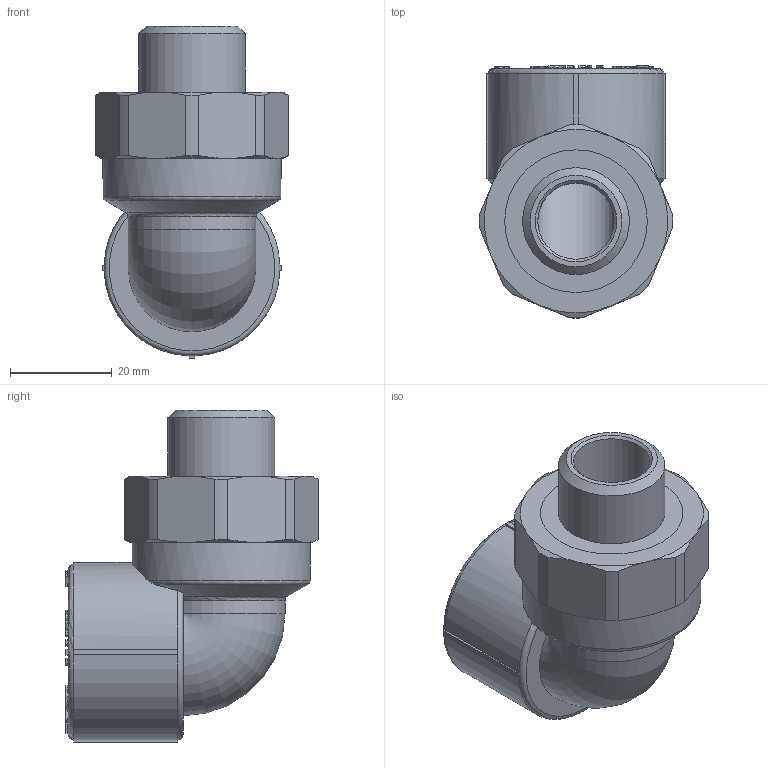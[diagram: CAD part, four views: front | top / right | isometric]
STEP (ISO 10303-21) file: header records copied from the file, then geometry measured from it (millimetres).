
FILE_DESCRIPTION(('STEP AP203'), '1');
FILE_NAME('ÂÐ.752212.038 - VTp.753.0.02504', '', ('UNSPECIFIED'), ('UNSPECIFIED'), 'C3D Converter', 'C3D Toolkit', '');
FILE_SCHEMA(('CONFIG_CONTROL_DESIGN'));
Length unit declared in the file: millimetre
Products named in the file (4): ВР.752212.038; ВР.302639.011.000; ВР.713751.001
Assembly tree (3 placements, depth 3):
  ВР.752212.038
    ВР.302639.011.000
      ВР.713751.001
      (unnamed)
Bounding box: 37.99 x 49.5 x 65.15 mm (x, y, z)
Volume: 38040.5 mm3; surface area: 20355.6 mm2
Topology: 3 solids, 3 shells, 709 faces, 1911 edges, 1252 vertices
Faces by surface type: extrusion 320, plane 295, cylinder 60, cone 22, torus 12
Full cylindrical faces by diameter (mm): 15 x3, 17.6 x2, 20.955 x1, 21 x2, 24 x6, 28 x8, 35 x1
Entity records: 23434 total; most frequent: CARTESIAN_POINT 6776, ORIENTED_EDGE 3728, DIRECTION 2472, EDGE_CURVE 1864, VECTOR 1326, VERTEX_POINT 1245, LINE 1006, B_SPLINE_CURVE_WITH_KNOTS 1003
